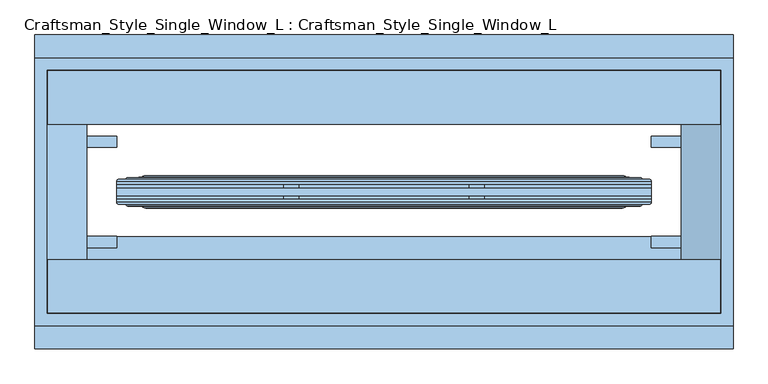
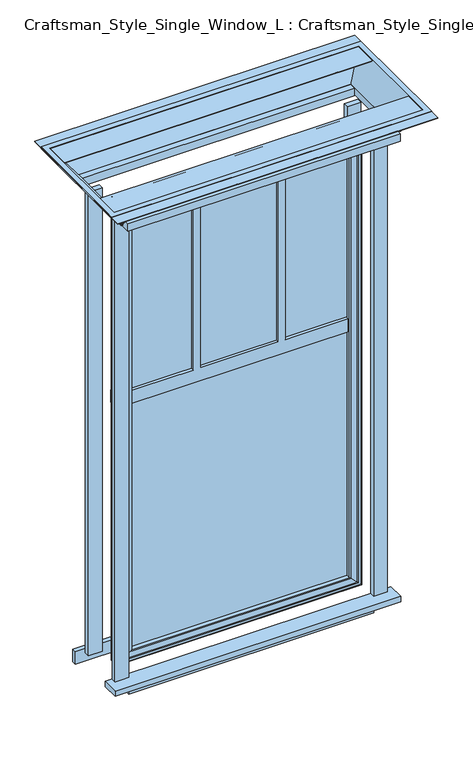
"""IFC4 building model written with IfcOpenShell, lengths in millimetres: window geometry, Craftsman_Style_Single_Window_L : Craftsman_Style_Single_Window_L."""

from ifc_helpers import new_model, si_unit, frame, origin, place, context, project, spatial, polyline, ellipse_curve, outline, extrude, source, transform, mapped, element, save
from ifc_brep_helpers import plane_surface, cylinder_surface, revolved_surface, advanced_brep


def craftsman_style_single_window_l_craftsman_style_single_4874115d(model_context):
    return source(origin(), model_context, "Body", "SolidModel", [
        extrude(outline(polyline([(507.9425208, 76.2), (457.2321354, 76.2), (457.2321354, 95.25), (507.9425208, 95.25), (507.9425208, 76.2)])), frame((0.0, 0.0, 914.4574792), z_axis=(0.0, 0.0, 1.0), x_axis=(1.0, 0.0, 0.0)), (0.0, 0.0, 1.0), 1828.7425208),
        extrude(outline(polyline([(-457.2574792, 76.2), (-508.0574792, 76.2), (-508.0574792, 95.25), (-457.2574792, 95.25), (-457.2574792, 76.2)])), frame((0.0, 0.0, 914.4), z_axis=(0.0, 0.0, 1.0), x_axis=(1.0, 0.0, 0.0)), (0.0, 0.0, 1.0), 1828.8),
        extrude(outline(polyline([(-457.1836897, -95.25), (-507.9425208, -95.25), (-507.9425208, -76.2), (-457.1836897, -76.2), (-457.1836897, -95.25)])), frame((0.0, 0.0, 914.4574792), z_axis=(0.0, 0.0, 1.0), x_axis=(1.0, 0.0, 0.0)), (0.0, 0.0, 1.0), 1828.7264525),
        extrude(outline(polyline([(508.0163103, -95.25), (457.2163103, -95.25), (457.2163103, -76.2), (508.0163103, -76.2), (508.0163103, -95.25)])), frame((0.0, 0.0, 914.3839317), z_axis=(0.0, 0.0, 1.0), x_axis=(1.0, 0.0, 0.0)), (0.0, 0.0, 1.0), 1828.8),
        advanced_brep(
        [(406.3425208, 12.9504719, 2692.3425208), (406.3425208, 27.586435, 2692.3425208), (406.3425208, 27.586435, 965.2574792), (406.3425208, 12.9504719, 965.2574792), (413.5984811, 25.375079, 2699.5984811), (413.5984811, 25.375079, 958.0015189), (-406.3425208, 27.586435, 965.2574792), (-406.3425208, 12.9504719, 965.2574792), (410.0284768, 12.9504719, 2696.0284768), (-410.0284768, 12.9504719, 2696.0284768), (-410.0284768, 12.9504719, 961.5715232), (410.0284768, 12.9504719, 961.5715232), (-406.3425208, 12.9504719, 2692.3425208), (411.1859948, 14.1079899, 2697.1859948), (411.1859948, 14.1079899, 960.4140052), (-411.1859948, 14.1079899, 960.4140052), (430.0429611, 14.1079899, 2716.0429611), (-430.0429611, 14.1079899, 2716.0429611), (-430.0429611, 14.1079899, 941.5570389), (430.0429611, 14.1079899, 941.5570389), (-411.1859948, 14.1079899, 2697.1859948), (431.2842472, 12.9504719, 2717.2842472), (431.2842472, 12.9504719, 940.3157528), (-431.2842472, 12.9504719, 940.3157528), (457.1425208, 12.9504719, 2743.1425208), (-457.1425208, 12.9504719, 2743.1425208), (-457.1425208, 12.9504719, 914.4574792), (457.1425208, 12.9504719, 914.4574792), (-431.2842472, 12.9504719, 2717.2842472), (457.1425208, 16.8138023, 2743.1425208), (457.1425208, 16.8138023, 914.4574792), (-457.1425208, 16.8138023, 914.4574792), (452.3810299, 21.6743318, 2738.3810299), (452.3810299, 21.6743318, 919.2189701), (-452.3810299, 21.6743318, 919.2189701), (-452.3810299, 21.6743318, 2738.3810299), (442.5211044, 21.6743318, 2728.5211044), (-442.5211044, 21.6743318, 2728.5211044), (-442.5211044, 21.6743318, 929.0788956), (442.5211044, 21.6743318, 929.0788956), (436.9638136, 24.2001393, 2722.9638136), (436.9638136, 24.2001393, 934.6361864), (-436.9638136, 24.2001393, 934.6361864), (-413.5984811, 25.375079, 958.0015189), (-406.3425208, 27.586435, 2692.3425208), (-457.1425208, 16.8138023, 2743.1425208), (-436.9638136, 24.2001393, 2722.9638136), (-413.5984811, 25.375079, 2699.5984811)],
        [
            (0, 1),
            (1, 2),
            (2, 3),
            (3, 0),
            (1, 4, ellipse_curve(frame((408.0559717, 20.1987526, 2694.0559717), z_axis=(0.7071067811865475, 0.0, -0.7071067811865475), x_axis=(0.7071067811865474, 0.0, 0.7071067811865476)), 10.7250889, 7.5837831)),
            (4, 5),
            (5, 2, ellipse_curve(frame((408.0559717, 20.1987526, 963.5440283), z_axis=(0.7071067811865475, 0.0, 0.7071067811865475), x_axis=(-0.7071067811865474, 0.0, 0.7071067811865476)), 10.7250889, 7.5837831)),
            (2, 6),
            (6, 7),
            (7, 3),
            (8, 9),
            (9, 10),
            (10, 11),
            (11, 8),
            (7, 12),
            (12, 0),
            (13, 8),
            (11, 14),
            (14, 13),
            (10, 15),
            (15, 14),
            (16, 17),
            (17, 18),
            (18, 19),
            (19, 16),
            (15, 20),
            (20, 13),
            (21, 16),
            (19, 22),
            (22, 21),
            (18, 23),
            (23, 22),
            (24, 25),
            (25, 26),
            (26, 27),
            (27, 24),
            (23, 28),
            (28, 21),
            (29, 24),
            (27, 30),
            (30, 29),
            (26, 31),
            (31, 30),
            (32, 29, ellipse_curve(frame((452.3810299, 16.9118318, 2738.3810299), z_axis=(0.7071067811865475, 0.0, -0.7071067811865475), x_axis=(0.7071067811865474, 0.0, 0.7071067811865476)), 6.7351921, 4.7625)),
            (30, 33, ellipse_curve(frame((452.3810299, 16.9118318, 919.2189701), z_axis=(0.7071067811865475, 0.0, 0.7071067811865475), x_axis=(-0.7071067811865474, 0.0, 0.7071067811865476)), 6.7351921, 4.7625)),
            (33, 32),
            (31, 34, ellipse_curve(frame((-452.3810299, 16.9118318, 919.2189701), z_axis=(0.7071067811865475, 0.0, -0.7071067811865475), x_axis=(0.7071067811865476, 0.0, 0.7071067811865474)), 6.7351921, 4.7625)),
            (34, 33),
            (34, 35),
            (35, 32),
            (36, 37),
            (37, 38),
            (38, 39),
            (39, 36),
            (40, 36, ellipse_curve(frame((437.7371633, 18.5251767, 2723.7371633), z_axis=(0.7071067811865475, 0.0, -0.7071067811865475), x_axis=(0.7071067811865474, 0.0, 0.7071067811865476)), 8.0997864, 5.7274139)),
            (39, 41, ellipse_curve(frame((437.7371633, 18.5251767, 933.8628367), z_axis=(0.7071067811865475, 0.0, 0.7071067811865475), x_axis=(-0.7071067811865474, 0.0, 0.7071067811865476)), 8.0997864, 5.7274139)),
            (41, 40),
            (38, 42, ellipse_curve(frame((-437.7371633, 18.5251767, 933.8628367), z_axis=(0.7071067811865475, 0.0, -0.7071067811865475), x_axis=(0.7071067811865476, 0.0, 0.7071067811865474)), 8.0997864, 5.7274139)),
            (42, 41),
            (4, 40, ellipse_curve(frame((428.4085351, 86.9801248, 2714.4085351), z_axis=(-0.7071067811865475, 0.0, 0.7071067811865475), x_axis=(-0.7071067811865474, 0.0, -0.7071067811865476)), 89.6049036, 63.3602349)),
            (41, 5, ellipse_curve(frame((428.4085351, 86.9801248, 943.1914649), z_axis=(-0.7071067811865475, 0.0, -0.7071067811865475), x_axis=(0.7071067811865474, 0.0, -0.7071067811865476)), 89.6049036, 63.3602349)),
            (42, 43, ellipse_curve(frame((-428.4085351, 86.9801248, 943.1914649), z_axis=(-0.7071067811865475, 0.0, 0.7071067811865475), x_axis=(-0.7071067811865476, 0.0, -0.7071067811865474)), 89.6049036, 63.3602349)),
            (43, 5),
            (43, 6, ellipse_curve(frame((-408.0559717, 20.1987526, 963.5440283), z_axis=(0.7071067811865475, 0.0, -0.7071067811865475), x_axis=(0.7071067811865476, 0.0, 0.7071067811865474)), 10.7250889, 7.5837831)),
            (6, 44),
            (44, 12),
            (9, 20),
            (17, 28),
            (25, 45),
            (45, 31),
            (45, 35, ellipse_curve(frame((-452.3810299, 16.9118318, 2738.3810299), z_axis=(-0.7071067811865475, 0.0, -0.7071067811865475), x_axis=(0.7071067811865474, 0.0, -0.7071067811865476)), 6.7351921, 4.7625)),
            (37, 46, ellipse_curve(frame((-437.7371633, 18.5251767, 2723.7371633), z_axis=(-0.7071067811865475, 0.0, -0.7071067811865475), x_axis=(0.7071067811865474, 0.0, -0.7071067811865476)), 8.0997864, 5.7274139)),
            (46, 42),
            (46, 47, ellipse_curve(frame((-428.4085351, 86.9801248, 2714.4085351), z_axis=(0.7071067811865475, 0.0, 0.7071067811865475), x_axis=(-0.7071067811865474, 0.0, 0.7071067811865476)), 89.6049036, 63.3602349)),
            (47, 43),
            (47, 44, ellipse_curve(frame((-408.0559717, 20.1987526, 2694.0559717), z_axis=(-0.7071067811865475, 0.0, -0.7071067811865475), x_axis=(0.7071067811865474, 0.0, -0.7071067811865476)), 10.7250889, 7.5837831)),
            (44, 1),
            (29, 45),
            (40, 46),
            (4, 47),
        ],
        [
            plane_surface(frame((406.3425208, 27.586435, 2692.3425208), z_axis=(-1.0, 0.0, 0.0), x_axis=(0.0, 0.0, -1.0))),
            cylinder_surface(frame((408.0559717, 20.1987526, 2743.2), z_axis=(0.0, 0.0, 1.0), x_axis=(0.0, 1.0, 0.0)), 7.5837831),
            plane_surface(frame((406.3425208, 27.586435, 965.2574792), z_axis=(0.0, 0.0, 1.0), x_axis=(-1.0, 0.0, 0.0))),
            plane_surface(frame((-406.3425208, 12.9504719, 2692.3425208), z_axis=(0.0, -1.0, 0.0), x_axis=(1.0, 0.0, 0.0))),
            plane_surface(frame((410.0284768, 12.9504719, 2696.0284768), z_axis=(0.707106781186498, -0.7071067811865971, 0.0), x_axis=(0.0, 0.0, -1.0))),
            plane_surface(frame((410.0284768, 12.9504719, 961.5715232), z_axis=(0.0, -0.7071067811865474, -0.7071067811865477), x_axis=(-1.0, 0.0, 0.0))),
            plane_surface(frame((-411.1859948, 14.1079899, 2697.1859948), z_axis=(0.0, -1.0, 0.0), x_axis=(1.0, 0.0, 0.0))),
            plane_surface(frame((430.0429611, 14.1079899, 2716.0429611), z_axis=(-0.6819983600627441, -0.7313537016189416, 0.0), x_axis=(0.0, 0.0, -1.0))),
            plane_surface(frame((430.0429611, 14.1079899, 941.5570389), z_axis=(0.0, -0.7313537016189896, 0.6819983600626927), x_axis=(-1.0, 0.0, 0.0))),
            plane_surface(frame((-431.2842472, 12.9504719, 2717.2842472), z_axis=(0.0, -1.0, 0.0), x_axis=(1.0, 0.0, 0.0))),
            plane_surface(frame((457.1425208, 12.9504719, 2743.1425208), z_axis=(1.0, 0.0, 0.0), x_axis=(0.0, 0.0, -1.0))),
            plane_surface(frame((457.1425208, 12.9504719, 914.4574792), z_axis=(0.0, 0.0, -1.0), x_axis=(-1.0, 0.0, 0.0))),
            cylinder_surface(frame((452.3810299, 16.9118318, 2743.2), z_axis=(0.0, 0.0, 1.0), x_axis=(0.0, 1.0, 0.0)), 4.7625),
            cylinder_surface(frame((457.2, 16.9118318, 919.2189701), z_axis=(1.0, 0.0, 0.0), x_axis=(0.0, 1.0, 0.0)), 4.7625),
            plane_surface(frame((-452.3810299, 21.6743318, 2738.3810299), z_axis=(0.0, 1.0, 0.0), x_axis=(1.0, 0.0, 0.0))),
            cylinder_surface(frame((437.7371633, 18.5251767, 2743.2), z_axis=(0.0, 0.0, 1.0), x_axis=(0.0, 1.0, 0.0)), 5.7274139),
            cylinder_surface(frame((457.2, 18.5251767, 933.8628367), z_axis=(1.0, 0.0, 0.0), x_axis=(0.0, 1.0, 0.0)), 5.7274139),
            revolved_surface(polyline([(428.4085351, 150.3403597, 879.8312299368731), (428.4085351, 150.3403597, 2777.768770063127)]), (428.4085351, 86.9801248, 2743.2), (0.0, 0.0, -1.0)),
            revolved_surface(polyline([(-491.76877006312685, 150.3403597, 943.1914649), (491.76877006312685, 150.3403597, 943.1914649)]), (457.2, 86.9801248, 943.1914649), (-1.0, 0.0, 0.0)),
            cylinder_surface(frame((457.2, 20.1987526, 963.5440283), z_axis=(1.0, 0.0, 0.0), x_axis=(0.0, 1.0, 0.0)), 7.5837831),
            plane_surface(frame((-406.3425208, 27.586435, 965.2574792), z_axis=(1.0, 0.0, 0.0), x_axis=(0.0, 0.0, 1.0))),
            plane_surface(frame((-410.0284768, 12.9504719, 961.5715232), z_axis=(-0.7071067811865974, -0.7071067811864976, 0.0), x_axis=(0.0, 0.0, 1.0))),
            plane_surface(frame((-430.0429611, 14.1079899, 941.5570389), z_axis=(0.6819983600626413, -0.7313537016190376, 0.0), x_axis=(0.0, 0.0, 1.0))),
            plane_surface(frame((-457.1425208, 12.9504719, 914.4574792), z_axis=(-1.0, 0.0, 0.0), x_axis=(0.0, 0.0, 1.0))),
            cylinder_surface(frame((-452.3810299, 16.9118318, 914.4), z_axis=(0.0, 0.0, -1.0), x_axis=(0.0, 1.0, 0.0)), 4.7625),
            cylinder_surface(frame((-437.7371633, 18.5251767, 914.4), z_axis=(0.0, 0.0, -1.0), x_axis=(0.0, 1.0, 0.0)), 5.7274139),
            revolved_surface(polyline([(-428.4085351, 150.3403597, 2777.768770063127), (-428.4085351, 150.3403597, 879.8312299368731)]), (-428.4085351, 86.9801248, 914.4), (0.0, 0.0, 1.0)),
            cylinder_surface(frame((-408.0559717, 20.1987526, 914.4), z_axis=(0.0, 0.0, -1.0), x_axis=(0.0, 1.0, 0.0)), 7.5837831),
            plane_surface(frame((-406.3425208, 27.586435, 2692.3425208), z_axis=(0.0, 0.0, -1.0), x_axis=(1.0, 0.0, 0.0))),
            plane_surface(frame((-410.0284768, 12.9504719, 2696.0284768), z_axis=(0.0, -0.7071067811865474, 0.7071067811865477), x_axis=(1.0, 0.0, 0.0))),
            plane_surface(frame((-430.0429611, 14.1079899, 2716.0429611), z_axis=(0.0, -0.7313537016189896, -0.6819983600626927), x_axis=(1.0, 0.0, 0.0))),
            plane_surface(frame((-457.1425208, 12.9504719, 2743.1425208), z_axis=(0.0, 0.0, 1.0), x_axis=(1.0, 0.0, 0.0))),
            cylinder_surface(frame((-457.2, 16.9118318, 2738.3810299), z_axis=(-1.0, 0.0, 0.0), x_axis=(0.0, 1.0, 0.0)), 4.7625),
            cylinder_surface(frame((-457.2, 18.5251767, 2723.7371633), z_axis=(-1.0, 0.0, 0.0), x_axis=(0.0, 1.0, 0.0)), 5.7274139),
            revolved_surface(polyline([(491.76877006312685, 150.3403597, 2714.4085351), (-491.76877006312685, 150.3403597, 2714.4085351)]), (-457.2, 86.9801248, 2714.4085351), (1.0, 0.0, 0.0)),
            cylinder_surface(frame((-457.2, 20.1987526, 2694.0559717), z_axis=(-1.0, 0.0, 0.0), x_axis=(0.0, 1.0, 0.0)), 7.5837831),
        ],
        [
            (0, [[1, 2, 3, 4]]),
            (1, [[5, 6, 7, -2]]),
            (2, [[-3, 8, 9, 10]]),
            (3, [[11, 12, 13, 14], [-10, 15, 16, -4]]),
            (4, [[17, -14, 18, 19]]),
            (5, [[-18, -13, 20, 21]]),
            (6, [[22, 23, 24, 25], [-21, 26, 27, -19]]),
            (7, [[28, -25, 29, 30]]),
            (8, [[-29, -24, 31, 32]]),
            (9, [[33, 34, 35, 36], [-32, 37, 38, -30]]),
            (10, [[39, -36, 40, 41]]),
            (11, [[-40, -35, 42, 43]]),
            (12, [[44, -41, 45, 46]]),
            (13, [[-45, -43, 47, 48]]),
            (14, [[-48, 49, 50, -46], [51, 52, 53, 54]]),
            (15, [[55, -54, 56, 57]]),
            (16, [[-56, -53, 58, 59]]),
            (17, [[60, -57, 61, -6]]),
            (18, [[-61, -59, 62, 63]]),
            (19, [[-7, -63, 64, -8]]),
            (20, [[-9, 65, 66, -15]]),
            (21, [[-20, -12, 67, -26]]),
            (22, [[-31, -23, 68, -37]]),
            (23, [[-42, -34, 69, 70]]),
            (24, [[-47, -70, 71, -49]]),
            (25, [[-58, -52, 72, 73]]),
            (26, [[-62, -73, 74, 75]]),
            (27, [[-64, -75, 76, -65]]),
            (28, [[-66, 77, -1, -16]]),
            (29, [[-67, -11, -17, -27]]),
            (30, [[-68, -22, -28, -38]]),
            (31, [[-69, -33, -39, 78]]),
            (32, [[-71, -78, -44, -50]]),
            (33, [[-72, -51, -55, 79]]),
            (34, [[-74, -79, -60, 80]]),
            (35, [[-76, -80, -5, -77]]),
        ],
    ),
        advanced_brep(
        [(-406.3425208, -12.7, 2692.3425208), (-406.3425208, -27.3359632, 2692.3425208), (-406.3425208, -27.3359632, 965.2574792), (-406.3425208, -12.7, 965.2574792), (-413.5984811, -25.1246071, 2699.5984811), (-413.5984811, -25.1246071, 958.0015189), (406.3425208, -27.3359632, 965.2574792), (406.3425208, -12.7, 965.2574792), (-410.0284768, -12.7, 2696.0284768), (410.0284768, -12.7, 2696.0284768), (410.0284768, -12.7, 961.5715232), (-410.0284768, -12.7, 961.5715232), (406.3425208, -12.7, 2692.3425208), (-411.1859948, -13.857518, 2697.1859948), (-411.1859948, -13.857518, 960.4140052), (411.1859948, -13.857518, 960.4140052), (-430.0429611, -13.857518, 2716.0429611), (430.0429611, -13.857518, 2716.0429611), (430.0429611, -13.857518, 941.5570389), (-430.0429611, -13.857518, 941.5570389), (411.1859948, -13.857518, 2697.1859948), (-431.2842472, -12.7, 2717.2842472), (-431.2842472, -12.7, 940.3157528), (431.2842472, -12.7, 940.3157528), (-457.1425208, -12.7, 2743.1425208), (457.1425208, -12.7, 2743.1425208), (457.1425208, -12.7, 914.4574792), (-457.1425208, -12.7, 914.4574792), (431.2842472, -12.7, 2717.2842472), (-457.1425208, -16.5633304, 2743.1425208), (-457.1425208, -16.5633304, 914.4574792), (457.1425208, -16.5633304, 914.4574792), (-452.3810299, -21.4238599, 2738.3810299), (-452.3810299, -21.4238599, 919.2189701), (452.3810299, -21.4238599, 919.2189701), (452.3810299, -21.4238599, 2738.3810299), (-442.5211044, -21.4238599, 2728.5211044), (442.5211044, -21.4238599, 2728.5211044), (442.5211044, -21.4238599, 929.0788956), (-442.5211044, -21.4238599, 929.0788956), (-436.9638136, -23.9496674, 2722.9638136), (-436.9638136, -23.9496674, 934.6361864), (436.9638136, -23.9496674, 934.6361864), (413.5984811, -25.1246071, 958.0015189), (406.3425208, -27.3359632, 2692.3425208), (457.1425208, -16.5633304, 2743.1425208), (436.9638136, -23.9496674, 2722.9638136), (413.5984811, -25.1246071, 2699.5984811)],
        [
            (0, 1),
            (1, 2),
            (2, 3),
            (3, 0),
            (1, 4, ellipse_curve(frame((-408.0559717, -19.9482807, 2694.0559717), z_axis=(-0.7071067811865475, 0.0, -0.7071067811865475), x_axis=(-0.7071067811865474, 0.0, 0.7071067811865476)), 10.7250889, 7.5837831)),
            (4, 5),
            (5, 2, ellipse_curve(frame((-408.0559717, -19.9482807, 963.5440283), z_axis=(-0.7071067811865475, 0.0, 0.7071067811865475), x_axis=(0.7071067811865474, 0.0, 0.7071067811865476)), 10.7250889, 7.5837831)),
            (2, 6),
            (6, 7),
            (7, 3),
            (8, 9),
            (9, 10),
            (10, 11),
            (11, 8),
            (7, 12),
            (12, 0),
            (13, 8),
            (11, 14),
            (14, 13),
            (10, 15),
            (15, 14),
            (16, 17),
            (17, 18),
            (18, 19),
            (19, 16),
            (15, 20),
            (20, 13),
            (21, 16),
            (19, 22),
            (22, 21),
            (18, 23),
            (23, 22),
            (24, 25),
            (25, 26),
            (26, 27),
            (27, 24),
            (23, 28),
            (28, 21),
            (29, 24),
            (27, 30),
            (30, 29),
            (26, 31),
            (31, 30),
            (32, 29, ellipse_curve(frame((-452.3810299, -16.6613599, 2738.3810299), z_axis=(-0.7071067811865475, 0.0, -0.7071067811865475), x_axis=(-0.7071067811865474, 0.0, 0.7071067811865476)), 6.7351921, 4.7625)),
            (30, 33, ellipse_curve(frame((-452.3810299, -16.6613599, 919.2189701), z_axis=(-0.7071067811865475, 0.0, 0.7071067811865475), x_axis=(0.7071067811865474, 0.0, 0.7071067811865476)), 6.7351921, 4.7625)),
            (33, 32),
            (31, 34, ellipse_curve(frame((452.3810299, -16.6613599, 919.2189701), z_axis=(-0.7071067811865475, 0.0, -0.7071067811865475), x_axis=(-0.7071067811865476, 0.0, 0.7071067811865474)), 6.7351921, 4.7625)),
            (34, 33),
            (34, 35),
            (35, 32),
            (36, 37),
            (37, 38),
            (38, 39),
            (39, 36),
            (40, 36, ellipse_curve(frame((-437.7371633, -18.2747049, 2723.7371633), z_axis=(-0.7071067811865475, 0.0, -0.7071067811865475), x_axis=(-0.7071067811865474, 0.0, 0.7071067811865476)), 8.0997864, 5.7274139)),
            (39, 41, ellipse_curve(frame((-437.7371633, -18.2747049, 933.8628367), z_axis=(-0.7071067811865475, 0.0, 0.7071067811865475), x_axis=(0.7071067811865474, 0.0, 0.7071067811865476)), 8.0997864, 5.7274139)),
            (41, 40),
            (38, 42, ellipse_curve(frame((437.7371633, -18.2747049, 933.8628367), z_axis=(-0.7071067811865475, 0.0, -0.7071067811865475), x_axis=(-0.7071067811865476, 0.0, 0.7071067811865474)), 8.0997864, 5.7274139)),
            (42, 41),
            (4, 40, ellipse_curve(frame((-428.4085351, -86.7296529, 2714.4085351), z_axis=(0.7071067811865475, 0.0, 0.7071067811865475), x_axis=(0.7071067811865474, 0.0, -0.7071067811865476)), 89.6049036, 63.3602349)),
            (41, 5, ellipse_curve(frame((-428.4085351, -86.7296529, 943.1914649), z_axis=(0.7071067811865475, 0.0, -0.7071067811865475), x_axis=(-0.7071067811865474, 0.0, -0.7071067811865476)), 89.6049036, 63.3602349)),
            (42, 43, ellipse_curve(frame((428.4085351, -86.7296529, 943.1914649), z_axis=(0.7071067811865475, 0.0, 0.7071067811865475), x_axis=(0.7071067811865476, 0.0, -0.7071067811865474)), 89.6049036, 63.3602349)),
            (43, 5),
            (43, 6, ellipse_curve(frame((408.0559717, -19.9482807, 963.5440283), z_axis=(-0.7071067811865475, 0.0, -0.7071067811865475), x_axis=(-0.7071067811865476, 0.0, 0.7071067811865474)), 10.7250889, 7.5837831)),
            (6, 44),
            (44, 12),
            (9, 20),
            (17, 28),
            (25, 45),
            (45, 31),
            (45, 35, ellipse_curve(frame((452.3810299, -16.6613599, 2738.3810299), z_axis=(0.7071067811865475, 0.0, -0.7071067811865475), x_axis=(-0.7071067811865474, 0.0, -0.7071067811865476)), 6.7351921, 4.7625)),
            (37, 46, ellipse_curve(frame((437.7371633, -18.2747049, 2723.7371633), z_axis=(0.7071067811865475, 0.0, -0.7071067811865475), x_axis=(-0.7071067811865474, 0.0, -0.7071067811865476)), 8.0997864, 5.7274139)),
            (46, 42),
            (46, 47, ellipse_curve(frame((428.4085351, -86.7296529, 2714.4085351), z_axis=(-0.7071067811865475, 0.0, 0.7071067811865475), x_axis=(0.7071067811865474, 0.0, 0.7071067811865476)), 89.6049036, 63.3602349)),
            (47, 43),
            (47, 44, ellipse_curve(frame((408.0559717, -19.9482807, 2694.0559717), z_axis=(0.7071067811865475, 0.0, -0.7071067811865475), x_axis=(-0.7071067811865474, 0.0, -0.7071067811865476)), 10.7250889, 7.5837831)),
            (44, 1),
            (29, 45),
            (40, 46),
            (4, 47),
        ],
        [
            plane_surface(frame((-406.3425208, -27.3359632, 2692.3425208), z_axis=(1.0, 0.0, 0.0), x_axis=(0.0, 0.0, -1.0))),
            cylinder_surface(frame((-408.0559717, -19.9482807, 2743.2), z_axis=(0.0, 0.0, 1.0), x_axis=(0.0, -1.0, 0.0)), 7.5837831),
            plane_surface(frame((-406.3425208, -27.3359632, 965.2574792), z_axis=(0.0, 0.0, 1.0), x_axis=(1.0, 0.0, 0.0))),
            plane_surface(frame((406.3425208, -12.7, 2692.3425208), z_axis=(0.0, 1.0, 0.0), x_axis=(-1.0, 0.0, 0.0))),
            plane_surface(frame((-410.0284768, -12.7, 2696.0284768), z_axis=(-0.7071067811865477, 0.7071067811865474, 0.0), x_axis=(0.0, 0.0, -1.0))),
            plane_surface(frame((-410.0284768, -12.7, 961.5715232), z_axis=(0.0, 0.7071067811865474, -0.7071067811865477), x_axis=(1.0, 0.0, 0.0))),
            plane_surface(frame((411.1859948, -13.857518, 2697.1859948), z_axis=(0.0, 1.0, 0.0), x_axis=(-1.0, 0.0, 0.0))),
            plane_surface(frame((-430.0429611, -13.857518, 2716.0429611), z_axis=(0.6819983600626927, 0.7313537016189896, 0.0), x_axis=(0.0, 0.0, -1.0))),
            plane_surface(frame((-430.0429611, -13.857518, 941.5570389), z_axis=(0.0, 0.7313537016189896, 0.6819983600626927), x_axis=(1.0, 0.0, 0.0))),
            plane_surface(frame((431.2842472, -12.7, 2717.2842472), z_axis=(0.0, 1.0, 0.0), x_axis=(-1.0, 0.0, 0.0))),
            plane_surface(frame((-457.1425208, -12.7, 2743.1425208), z_axis=(-1.0, 0.0, 0.0), x_axis=(0.0, 0.0, -1.0))),
            plane_surface(frame((-457.1425208, -12.7, 914.4574792), z_axis=(0.0, 0.0, -1.0), x_axis=(1.0, 0.0, 0.0))),
            cylinder_surface(frame((-452.3810299, -16.6613599, 2743.2), z_axis=(0.0, 0.0, 1.0), x_axis=(0.0, -1.0, 0.0)), 4.7625),
            cylinder_surface(frame((-457.2, -16.6613599, 919.2189701), z_axis=(-1.0, 0.0, 0.0), x_axis=(0.0, -1.0, 0.0)), 4.7625),
            plane_surface(frame((452.3810299, -21.4238599, 2738.3810299), z_axis=(0.0, -1.0, 0.0), x_axis=(-1.0, 0.0, 0.0))),
            cylinder_surface(frame((-437.7371633, -18.2747049, 2743.2), z_axis=(0.0, 0.0, 1.0), x_axis=(0.0, -1.0, 0.0)), 5.7274139),
            cylinder_surface(frame((-457.2, -18.2747049, 933.8628367), z_axis=(-1.0, 0.0, 0.0), x_axis=(0.0, -1.0, 0.0)), 5.7274139),
            revolved_surface(polyline([(-428.4085351, -150.0898878, 879.8312299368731), (-428.4085351, -150.0898878, 2777.768770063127)]), (-428.4085351, -86.7296529, 2743.2), (0.0, 0.0, -1.0)),
            revolved_surface(polyline([(491.76877006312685, -150.0898878, 943.1914649), (-491.76877006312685, -150.0898878, 943.1914649)]), (-457.2, -86.7296529, 943.1914649), (1.0, 0.0, 0.0)),
            cylinder_surface(frame((-457.2, -19.9482807, 963.5440283), z_axis=(-1.0, 0.0, 0.0), x_axis=(0.0, -1.0, 0.0)), 7.5837831),
            plane_surface(frame((406.3425208, -27.3359632, 965.2574792), z_axis=(-1.0, 0.0, 0.0), x_axis=(0.0, 0.0, 1.0))),
            plane_surface(frame((410.0284768, -12.7, 961.5715232), z_axis=(0.7071067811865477, 0.7071067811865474, 0.0), x_axis=(0.0, 0.0, 1.0))),
            plane_surface(frame((430.0429611, -13.857518, 941.5570389), z_axis=(-0.6819983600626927, 0.7313537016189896, 0.0), x_axis=(0.0, 0.0, 1.0))),
            plane_surface(frame((457.1425208, -12.7, 914.4574792), z_axis=(1.0, 0.0, 0.0), x_axis=(0.0, 0.0, 1.0))),
            cylinder_surface(frame((452.3810299, -16.6613599, 914.4), z_axis=(0.0, 0.0, -1.0), x_axis=(0.0, -1.0, 0.0)), 4.7625),
            cylinder_surface(frame((437.7371633, -18.2747049, 914.4), z_axis=(0.0, 0.0, -1.0), x_axis=(0.0, -1.0, 0.0)), 5.7274139),
            revolved_surface(polyline([(428.4085351, -150.0898878, 2777.768770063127), (428.4085351, -150.0898878, 879.8312299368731)]), (428.4085351, -86.7296529, 914.4), (0.0, 0.0, 1.0)),
            cylinder_surface(frame((408.0559717, -19.9482807, 914.4), z_axis=(0.0, 0.0, -1.0), x_axis=(0.0, -1.0, 0.0)), 7.5837831),
            plane_surface(frame((406.3425208, -27.3359632, 2692.3425208), z_axis=(0.0, 0.0, -1.0), x_axis=(-1.0, 0.0, 0.0))),
            plane_surface(frame((410.0284768, -12.7, 2696.0284768), z_axis=(0.0, 0.7071067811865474, 0.7071067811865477), x_axis=(-1.0, 0.0, 0.0))),
            plane_surface(frame((430.0429611, -13.857518, 2716.0429611), z_axis=(0.0, 0.7313537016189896, -0.6819983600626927), x_axis=(-1.0, 0.0, 0.0))),
            plane_surface(frame((457.1425208, -12.7, 2743.1425208), z_axis=(0.0, 0.0, 1.0), x_axis=(-1.0, 0.0, 0.0))),
            cylinder_surface(frame((457.2, -16.6613599, 2738.3810299), z_axis=(1.0, 0.0, 0.0), x_axis=(0.0, -1.0, 0.0)), 4.7625),
            cylinder_surface(frame((457.2, -18.2747049, 2723.7371633), z_axis=(1.0, 0.0, 0.0), x_axis=(0.0, -1.0, 0.0)), 5.7274139),
            revolved_surface(polyline([(-491.76877006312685, -150.0898878, 2714.4085351), (491.76877006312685, -150.0898878, 2714.4085351)]), (457.2, -86.7296529, 2714.4085351), (-1.0, 0.0, 0.0)),
            cylinder_surface(frame((457.2, -19.9482807, 2694.0559717), z_axis=(1.0, 0.0, 0.0), x_axis=(0.0, -1.0, 0.0)), 7.5837831),
        ],
        [
            (0, [[1, 2, 3, 4]]),
            (1, [[5, 6, 7, -2]]),
            (2, [[-3, 8, 9, 10]]),
            (3, [[11, 12, 13, 14], [-10, 15, 16, -4]]),
            (4, [[17, -14, 18, 19]]),
            (5, [[-18, -13, 20, 21]]),
            (6, [[22, 23, 24, 25], [-21, 26, 27, -19]]),
            (7, [[28, -25, 29, 30]]),
            (8, [[-29, -24, 31, 32]]),
            (9, [[33, 34, 35, 36], [-32, 37, 38, -30]]),
            (10, [[39, -36, 40, 41]]),
            (11, [[-40, -35, 42, 43]]),
            (12, [[44, -41, 45, 46]]),
            (13, [[-45, -43, 47, 48]]),
            (14, [[-48, 49, 50, -46], [51, 52, 53, 54]]),
            (15, [[55, -54, 56, 57]]),
            (16, [[-56, -53, 58, 59]]),
            (17, [[60, -57, 61, -6]]),
            (18, [[-61, -59, 62, 63]]),
            (19, [[-7, -63, 64, -8]]),
            (20, [[-9, 65, 66, -15]]),
            (21, [[-20, -12, 67, -26]]),
            (22, [[-31, -23, 68, -37]]),
            (23, [[-42, -34, 69, 70]]),
            (24, [[-47, -70, 71, -49]]),
            (25, [[-58, -52, 72, 73]]),
            (26, [[-62, -73, 74, 75]]),
            (27, [[-64, -75, 76, -65]]),
            (28, [[-66, 77, -1, -16]]),
            (29, [[-67, -11, -17, -27]]),
            (30, [[-68, -22, -28, -38]]),
            (31, [[-69, -33, -39, 78]]),
            (32, [[-71, -78, -44, -50]]),
            (33, [[-72, -51, -55, 79]]),
            (34, [[-74, -79, -60, 80]]),
            (35, [[-76, -80, -5, -77]]),
        ],
    ),
        extrude(outline(polyline([(457.2, -6.35), (-457.2, -6.35), (-457.2, 6.35), (457.2, 6.35), (457.2, -6.35)])), frame((0.0, 0.0, 914.4), z_axis=(0.0, 0.0, 1.0), x_axis=(1.0, 0.0, 0.0)), (0.0, 0.0, 1.0), 1828.8),
        extrude(outline(polyline([(2743.2, -146.05), (2743.2, -171.45), (1981.2, -171.45), (1981.2, -457.2), (1930.4, -457.2), (1930.4, 457.2), (1981.2, 457.2), (1981.2, 171.45), (2743.2, 171.45), (2743.2, 146.05), (1981.2, 146.05), (1981.2, -146.05), (2743.2, -146.05)])), frame((0.0, -19.05, 0.0), z_axis=(0.0, 1.0, 0.0), x_axis=(0.0, 0.0, 1.0)), (0.0, 0.0, 1.0), 12.7),
        extrude(outline(polyline([(1981.2, 171.45), (2743.2, 171.45), (2743.2, 146.05), (1981.2, 146.05), (1981.2, -146.05), (2743.2, -146.05), (2743.2, -171.45), (1981.2, -171.45), (1981.2, -457.2), (1930.4, -457.2), (1930.4, 457.2), (1981.2, 457.2), (1981.2, 171.45)])), frame((0.0, 6.35, 0.0), z_axis=(0.0, 1.0, 0.0), x_axis=(0.0, 0.0, 1.0)), (0.0, 0.0, 1.0), 12.7),
        extrude(outline(polyline([(-596.8425208, -268.2875), (-596.8425208, -115.8875), (596.9163103, -115.8875), (596.9163103, -268.2875), (-596.8425208, -268.2875)])), frame((0.0, 0.0, 2857.5), z_axis=(0.0, 0.0, 1.0), x_axis=(1.0, 0.0, 0.0)), (0.0, 0.0, 1.0), 1.5875),
        extrude(outline(polyline([(-596.8425208, 268.2875), (596.9163103, 268.2875), (596.9163103, 115.8875), (-596.8425208, 115.8875), (-596.8425208, 268.2875)])), frame((0.0, 0.0, 2857.5), z_axis=(0.0, 0.0, 1.0), x_axis=(1.0, 0.0, 0.0)), (0.0, 0.0, 1.0), 1.5875),
        advanced_brep(
        [(596.9163103, 228.6, 2853.5231102), (596.9163103, 228.6, 2860.674973), (596.9163103, -228.6, 2860.674973), (596.9163103, -228.6, 2853.5231102), (590.9514665, 222.6351561, 2850.0736257), (594.4009509, 226.0846406, 2853.5231102), (594.4009509, -226.0846406, 2853.5231102), (590.9514665, -222.6351561, 2850.0736257), (582.1537736, 213.8374633, 2843.8952934), (582.1537736, -213.8374633, 2843.8952934), (579.3852098, 211.0688995, 2838.4448146), (579.3852098, 211.0688995, 2843.8952934), (579.3852098, -211.0688995, 2843.8952934), (579.3852098, -211.0688995, 2838.4448146), (565.8560542, 197.5397438, 2819.1192936), (565.8560542, -197.5397438, 2819.1192936), (558.6138249, 190.2975145, 2814.3944168), (558.6138249, -190.2975145, 2814.3944168), (533.1175631, 164.8012527, 2775.7304653), (533.1175631, -164.8012527, 2775.7304653), (529.8901881, 161.5738778, 2770.6957604), (529.8901881, 161.5738778, 2775.7304653), (529.8901881, -161.5738778, 2775.7304653), (529.8901881, -161.5738778, 2770.6957604), (519.1753034, 150.8589931, 2760.2907037), (526.3013472, 157.9850369, 2770.6957604), (526.3013472, -157.9850369, 2770.6957604), (519.1753034, -150.8589931, 2760.2907037), (519.1753034, 150.8589931, 2756.0047498), (519.1753034, -150.8589931, 2756.0047498), (515.1991775, 146.8828672, 2749.55), (515.1991775, -146.8828672, 2749.55), (508.0163103, 139.7, 2774.1669306), (508.0163103, 139.7, 2749.55), (508.0163103, -139.7, 2749.55), (508.0163103, -139.7, 2774.1669306), (576.2094729, 207.8931626, 2860.674973), (576.2094729, -207.8931626, 2860.674973), (-596.8425208, -228.6, 2860.674973), (-596.8425208, -228.6, 2853.5231102), (-594.3271615, -226.0846406, 2853.5231102), (-590.877677, -222.6351561, 2850.0736257), (-582.0799841, -213.8374633, 2843.8952934), (-579.3114203, -211.0688995, 2843.8952934), (-579.3114203, -211.0688995, 2838.4448146), (-565.7822647, -197.5397438, 2819.1192936), (-558.5400354, -190.2975145, 2814.3944168), (-533.0437736, -164.8012527, 2775.7304653), (-529.8163987, -161.5738778, 2775.7304653), (-529.8163987, -161.5738778, 2770.6957604), (-526.2275577, -157.9850369, 2770.6957604), (-519.1015139, -150.8589931, 2760.2907037), (-519.1015139, -150.8589931, 2756.0047498), (-515.125388, -146.8828672, 2749.55), (-507.9425208, -139.7, 2749.55), (-507.9425208, -139.7, 2774.1669306), (-576.1356834, -207.8931626, 2860.674973), (-596.8425208, 228.6, 2860.674973), (-596.8425208, 228.6, 2853.5231102), (-594.3271615, 226.0846406, 2853.5231102), (-590.877677, 222.6351561, 2850.0736257), (-582.0799841, 213.8374633, 2843.8952934), (-579.3114203, 211.0688995, 2843.8952934), (-579.3114203, 211.0688995, 2838.4448146), (-565.7822647, 197.5397438, 2819.1192936), (-558.5400354, 190.2975145, 2814.3944168), (-533.0437736, 164.8012527, 2775.7304653), (-529.8163987, 161.5738778, 2775.7304653), (-529.8163987, 161.5738778, 2770.6957604), (-526.2275577, 157.9850369, 2770.6957604), (-519.1015139, 150.8589931, 2760.2907037), (-519.1015139, 150.8589931, 2756.0047498), (-515.125388, 146.8828672, 2749.55), (-507.9425208, 139.7, 2749.55), (-507.9425208, 139.7, 2774.1669306), (-576.1356834, 207.8931626, 2860.674973)],
        [
            (0, 1),
            (1, 2),
            (2, 3),
            (3, 0),
            (4, 5, ellipse_curve(frame((598.2354514, 229.919141, 2846.2391253), z_axis=(-0.7071067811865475, 0.7071067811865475, 0.0), x_axis=(-0.7071067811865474, -0.7071067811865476, 0.0)), 11.6412911, 8.2316359)),
            (5, 6),
            (6, 7, ellipse_curve(frame((598.2354514, -229.919141, 2846.2391253), z_axis=(-0.7071067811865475, -0.7071067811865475, 0.0), x_axis=(0.7071067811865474, -0.7071067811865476, 0.0)), 11.6412911, 8.2316359)),
            (7, 4),
            (8, 4, ellipse_curve(frame((583.0961003, 214.7797899, 2851.9064026), z_axis=(0.7071067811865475, -0.7071067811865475, 0.0), x_axis=(0.7071067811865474, 0.7071067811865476, 0.0)), 11.4075282, 8.0663405)),
            (7, 9, ellipse_curve(frame((583.0961003, -214.7797899, 2851.9064026), z_axis=(0.7071067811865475, 0.7071067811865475, 0.0), x_axis=(-0.7071067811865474, 0.7071067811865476, 0.0)), 11.4075282, 8.0663405)),
            (9, 8),
            (10, 11),
            (11, 12),
            (12, 13),
            (13, 10),
            (14, 10, ellipse_curve(frame((557.5478629, 189.2315525, 2839.3339994), z_axis=(0.7071067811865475, -0.7071067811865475, 0.0), x_axis=(0.7071067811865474, 0.7071067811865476, 0.0)), 30.9082633, 21.8554426)),
            (13, 15, ellipse_curve(frame((557.5478629, -189.2315525, 2839.3339994), z_axis=(0.7071067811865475, 0.7071067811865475, 0.0), x_axis=(-0.7071067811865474, 0.7071067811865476, 0.0)), 30.9082633, 21.8554426)),
            (15, 14),
            (16, 14),
            (15, 17),
            (17, 16),
            (18, 16, ellipse_curve(frame((580.065965, 211.7496547, 2772.5096746), z_axis=(-0.7071067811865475, 0.7071067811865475, 0.0), x_axis=(-0.7071067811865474, -0.7071067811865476, 0.0)), 66.5511223, 47.0587499)),
            (17, 19, ellipse_curve(frame((580.065965, -211.7496547, 2772.5096746), z_axis=(-0.7071067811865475, -0.7071067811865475, 0.0), x_axis=(0.7071067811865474, -0.7071067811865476, 0.0)), 66.5511223, 47.0587499)),
            (19, 18),
            (20, 21),
            (21, 22),
            (22, 23),
            (23, 20),
            (24, 25, ellipse_curve(frame((515.8137808, 147.4974704, 2770.2356001), z_axis=(0.7071067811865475, -0.7071067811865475, 0.0), x_axis=(0.7071067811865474, 0.7071067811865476, 0.0)), 14.8459286, 10.4976568)),
            (25, 26),
            (26, 27, ellipse_curve(frame((515.8137808, -147.4974704, 2770.2356001), z_axis=(0.7071067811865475, 0.7071067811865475, 0.0), x_axis=(-0.7071067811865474, 0.7071067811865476, 0.0)), 14.8459286, 10.4976568)),
            (27, 24),
            (28, 24),
            (27, 29),
            (29, 28),
            (30, 28, ellipse_curve(frame((522.4525969, 154.1362866, 2749.5339154), z_axis=(-0.7071067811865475, 0.7071067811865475, 0.0), x_axis=(-0.7071067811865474, -0.7071067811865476, 0.0)), 10.2579093, 7.2534372)),
            (29, 31, ellipse_curve(frame((522.4525969, -154.1362866, 2749.5339154), z_axis=(-0.7071067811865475, -0.7071067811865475, 0.0), x_axis=(0.7071067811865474, -0.7071067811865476, 0.0)), 10.2579093, 7.2534372)),
            (31, 30),
            (32, 33),
            (33, 34),
            (34, 35),
            (35, 32),
            (36, 32),
            (35, 37),
            (37, 36),
            (2, 38),
            (38, 39),
            (39, 3),
            (6, 40),
            (40, 41, ellipse_curve(frame((-598.1616619, -229.919141, 2846.2391253), z_axis=(-0.7071067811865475, 0.7071067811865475, 0.0), x_axis=(-0.7071067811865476, -0.7071067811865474, 0.0)), 11.6412911, 8.2316359)),
            (41, 7),
            (41, 42, ellipse_curve(frame((-583.0223108, -214.7797899, 2851.9064026), z_axis=(0.7071067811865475, -0.7071067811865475, 0.0), x_axis=(0.7071067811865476, 0.7071067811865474, 0.0)), 11.4075282, 8.0663405)),
            (42, 9),
            (12, 43),
            (43, 44),
            (44, 13),
            (44, 45, ellipse_curve(frame((-557.4740734, -189.2315525, 2839.3339994), z_axis=(0.7071067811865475, -0.7071067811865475, 0.0), x_axis=(0.7071067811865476, 0.7071067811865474, 0.0)), 30.9082633, 21.8554426)),
            (45, 15),
            (45, 46),
            (46, 17),
            (46, 47, ellipse_curve(frame((-579.9921756, -211.7496547, 2772.5096746), z_axis=(-0.7071067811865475, 0.7071067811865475, 0.0), x_axis=(-0.7071067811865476, -0.7071067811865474, 0.0)), 66.5511223, 47.0587499)),
            (47, 19),
            (22, 48),
            (48, 49),
            (49, 23),
            (26, 50),
            (50, 51, ellipse_curve(frame((-515.7399913, -147.4974704, 2770.2356001), z_axis=(0.7071067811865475, -0.7071067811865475, 0.0), x_axis=(0.7071067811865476, 0.7071067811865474, 0.0)), 14.8459286, 10.4976568)),
            (51, 27),
            (51, 52),
            (52, 29),
            (52, 53, ellipse_curve(frame((-522.3788074, -154.1362866, 2749.5339154), z_axis=(-0.7071067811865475, 0.7071067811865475, 0.0), x_axis=(-0.7071067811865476, -0.7071067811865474, 0.0)), 10.2579093, 7.2534372)),
            (53, 31),
            (34, 54),
            (54, 55),
            (55, 35),
            (55, 56),
            (56, 37),
            (38, 57),
            (57, 58),
            (58, 39),
            (40, 59),
            (59, 60, ellipse_curve(frame((-598.1616619, 229.919141, 2846.2391253), z_axis=(0.7071067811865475, 0.7071067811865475, 0.0), x_axis=(-0.7071067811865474, 0.7071067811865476, 0.0)), 11.6412911, 8.2316359)),
            (60, 41),
            (60, 61, ellipse_curve(frame((-583.0223108, 214.7797899, 2851.9064026), z_axis=(-0.7071067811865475, -0.7071067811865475, 0.0), x_axis=(0.7071067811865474, -0.7071067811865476, 0.0)), 11.4075282, 8.0663405)),
            (61, 42),
            (43, 62),
            (62, 63),
            (63, 44),
            (63, 64, ellipse_curve(frame((-557.4740734, 189.2315525, 2839.3339994), z_axis=(-0.7071067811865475, -0.7071067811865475, 0.0), x_axis=(0.7071067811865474, -0.7071067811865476, 0.0)), 30.9082633, 21.8554426)),
            (64, 45),
            (64, 65),
            (65, 46),
            (65, 66, ellipse_curve(frame((-579.9921756, 211.7496547, 2772.5096746), z_axis=(0.7071067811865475, 0.7071067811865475, 0.0), x_axis=(-0.7071067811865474, 0.7071067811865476, 0.0)), 66.5511223, 47.0587499)),
            (66, 47),
            (48, 67),
            (67, 68),
            (68, 49),
            (50, 69),
            (69, 70, ellipse_curve(frame((-515.7399913, 147.4974704, 2770.2356001), z_axis=(-0.7071067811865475, -0.7071067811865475, 0.0), x_axis=(0.7071067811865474, -0.7071067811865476, 0.0)), 14.8459286, 10.4976568)),
            (70, 51),
            (70, 71),
            (71, 52),
            (71, 72, ellipse_curve(frame((-522.3788074, 154.1362866, 2749.5339154), z_axis=(0.7071067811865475, 0.7071067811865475, 0.0), x_axis=(-0.7071067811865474, 0.7071067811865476, 0.0)), 10.2579093, 7.2534372)),
            (72, 53),
            (54, 73),
            (73, 74),
            (74, 55),
            (74, 75),
            (75, 56),
            (1, 57),
            (75, 36),
            (0, 58),
            (5, 59),
            (4, 60),
            (8, 61),
            (11, 62),
            (10, 63),
            (14, 64),
            (16, 65),
            (18, 66),
            (21, 67),
            (20, 68),
            (25, 69),
            (24, 70),
            (28, 71),
            (30, 72),
            (33, 73),
            (32, 74),
        ],
        [
            plane_surface(frame((596.9163103, 228.6, 2860.674973), z_axis=(1.0, 0.0, 0.0), x_axis=(0.0, -1.0, 0.0))),
            revolved_surface(polyline([(606.4670873, -238.1507768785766, 2846.2391253), (606.4670873, 238.1507768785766, 2846.2391253)]), (598.2354514, 139.7, 2846.2391253), (0.0, -1.0, 0.0)),
            cylinder_surface(frame((583.0961003, 139.7, 2851.9064026), z_axis=(0.0, 1.0, 0.0), x_axis=(1.0, 0.0, 0.0)), 8.0663405),
            plane_surface(frame((579.3852098, 211.0688995, 2843.8952934), z_axis=(1.0, 0.0, 0.0), x_axis=(0.0, -1.0, 0.0))),
            cylinder_surface(frame((557.5478629, 139.7, 2839.3339994), z_axis=(0.0, 1.0, 0.0), x_axis=(1.0, 0.0, 0.0)), 21.8554426),
            plane_surface(frame((565.8560542, 197.5397438, 2819.1192936), z_axis=(0.5464043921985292, 0.0, -0.8375214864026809), x_axis=(0.0, -1.0, 0.0))),
            revolved_surface(polyline([(627.1247149, -258.8084045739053, 2772.5096746), (627.1247149, 258.80840457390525, 2772.5096746)]), (580.065965, 139.7, 2772.5096746), (0.0, -1.0, 0.0)),
            plane_surface(frame((529.8901881, 161.5738778, 2775.7304653), z_axis=(1.0, 0.0, 0.0), x_axis=(0.0, -1.0, 0.0))),
            cylinder_surface(frame((515.8137808, 139.7, 2770.2356001), z_axis=(0.0, 1.0, 0.0), x_axis=(1.0, 0.0, 0.0)), 10.4976568),
            plane_surface(frame((519.1753034, 150.8589931, 2760.2907037), z_axis=(1.0, 0.0, 0.0), x_axis=(0.0, -1.0, 0.0))),
            revolved_surface(polyline([(529.7060341, -161.38972382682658, 2749.5339154), (529.7060341, 161.38972382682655, 2749.5339154)]), (522.4525969, 139.7, 2749.5339154), (0.0, -1.0, 0.0)),
            plane_surface(frame((508.0163103, 139.7, 2749.55), z_axis=(-1.0, 0.0, 0.0), x_axis=(0.0, -1.0, 0.0))),
            plane_surface(frame((508.0163103, 139.7, 2774.1669306), z_axis=(-0.7853358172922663, 0.0, 0.6190699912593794), x_axis=(0.0, -1.0, 0.0))),
            plane_surface(frame((596.9163103, -228.6, 2860.674973), z_axis=(0.0, -1.0, 0.0), x_axis=(-1.0, 0.0, 0.0))),
            revolved_surface(polyline([(-606.3932977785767, -238.15077689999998, 2846.2391253), (606.4670872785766, -238.15077689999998, 2846.2391253)]), (508.0163103, -229.919141, 2846.2391253), (-1.0, 0.0, 0.0)),
            cylinder_surface(frame((508.0163103, -214.7797899, 2851.9064026), z_axis=(1.0, 0.0, 0.0), x_axis=(0.0, -1.0, 0.0)), 8.0663405),
            plane_surface(frame((579.3852098, -211.0688995, 2843.8952934), z_axis=(0.0, -1.0, 0.0), x_axis=(-1.0, 0.0, 0.0))),
            cylinder_surface(frame((508.0163103, -189.2315525, 2839.3339994), z_axis=(1.0, 0.0, 0.0), x_axis=(0.0, -1.0, 0.0)), 21.8554426),
            plane_surface(frame((565.8560542, -197.5397438, 2819.1192936), z_axis=(0.0, -0.5464043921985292, -0.8375214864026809), x_axis=(-1.0, 0.0, 0.0))),
            revolved_surface(polyline([(-627.0509254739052, -258.8084046, 2772.5096746), (627.1247148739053, -258.8084046, 2772.5096746)]), (508.0163103, -211.7496547, 2772.5096746), (-1.0, 0.0, 0.0)),
            plane_surface(frame((529.8901881, -161.5738778, 2775.7304653), z_axis=(0.0, -1.0, 0.0), x_axis=(-1.0, 0.0, 0.0))),
            cylinder_surface(frame((508.0163103, -147.4974704, 2770.2356001), z_axis=(1.0, 0.0, 0.0), x_axis=(0.0, -1.0, 0.0)), 10.4976568),
            plane_surface(frame((519.1753034, -150.8589931, 2760.2907037), z_axis=(0.0, -1.0, 0.0), x_axis=(-1.0, 0.0, 0.0))),
            revolved_surface(polyline([(-529.6322446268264, -161.3897238, 2749.5339154), (529.7060341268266, -161.3897238, 2749.5339154)]), (508.0163103, -154.1362866, 2749.5339154), (-1.0, 0.0, 0.0)),
            plane_surface(frame((508.0163103, -139.7, 2749.55), z_axis=(0.0, 1.0, 0.0), x_axis=(-1.0, 0.0, 0.0))),
            plane_surface(frame((508.0163103, -139.7, 2774.1669306), z_axis=(0.0, 0.7853358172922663, 0.6190699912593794), x_axis=(-1.0, 0.0, 0.0))),
            plane_surface(frame((-596.8425208, -228.6, 2860.674973), z_axis=(-1.0, 0.0, 0.0), x_axis=(0.0, 1.0, 0.0))),
            revolved_surface(polyline([(-606.3932978, 238.1507768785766, 2846.2391253), (-606.3932978, -238.1507768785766, 2846.2391253)]), (-598.1616619, -139.7, 2846.2391253), (0.0, 1.0, 0.0)),
            cylinder_surface(frame((-583.0223108, -139.7, 2851.9064026), z_axis=(0.0, -1.0, 0.0), x_axis=(-1.0, 0.0, 0.0)), 8.0663405),
            plane_surface(frame((-579.3114203, -211.0688995, 2843.8952934), z_axis=(-1.0, 0.0, 0.0), x_axis=(0.0, 1.0, 0.0))),
            cylinder_surface(frame((-557.4740734, -139.7, 2839.3339994), z_axis=(0.0, -1.0, 0.0), x_axis=(-1.0, 0.0, 0.0)), 21.8554426),
            plane_surface(frame((-565.7822647, -197.5397438, 2819.1192936), z_axis=(-0.5464043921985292, 0.0, -0.8375214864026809), x_axis=(0.0, 1.0, 0.0))),
            revolved_surface(polyline([(-627.0509255, 258.8084045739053, 2772.5096746), (-627.0509255, -258.80840457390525, 2772.5096746)]), (-579.9921756, -139.7, 2772.5096746), (0.0, 1.0, 0.0)),
            plane_surface(frame((-529.8163987, -161.5738778, 2775.7304653), z_axis=(-1.0, 0.0, 0.0), x_axis=(0.0, 1.0, 0.0))),
            cylinder_surface(frame((-515.7399913, -139.7, 2770.2356001), z_axis=(0.0, -1.0, 0.0), x_axis=(-1.0, 0.0, 0.0)), 10.4976568),
            plane_surface(frame((-519.1015139, -150.8589931, 2760.2907037), z_axis=(-1.0, 0.0, 0.0), x_axis=(0.0, 1.0, 0.0))),
            revolved_surface(polyline([(-529.6322446, 161.38972382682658, 2749.5339154), (-529.6322446, -161.38972382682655, 2749.5339154)]), (-522.3788074, -139.7, 2749.5339154), (0.0, 1.0, 0.0)),
            plane_surface(frame((-507.9425208, -139.7, 2749.55), z_axis=(1.0, 0.0, 0.0), x_axis=(0.0, 1.0, 0.0))),
            plane_surface(frame((-507.9425208, -139.7, 2774.1669306), z_axis=(0.7853358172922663, 0.0, 0.6190699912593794), x_axis=(0.0, 1.0, 0.0))),
            plane_surface(frame((-576.1356834, 207.8931626, 2860.674973), z_axis=(0.0, 0.0, 1.0), x_axis=(1.0, 0.0, 0.0))),
            plane_surface(frame((-596.8425208, 228.6, 2860.674973), z_axis=(0.0, 1.0, 0.0), x_axis=(1.0, 0.0, 0.0))),
            plane_surface(frame((-596.8425208, 228.6, 2853.5231102), z_axis=(0.0, 0.0, -1.0), x_axis=(1.0, 0.0, 0.0))),
            revolved_surface(polyline([(606.4670872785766, 238.15077689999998, 2846.2391253), (-606.3932977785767, 238.15077689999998, 2846.2391253)]), (-507.9425208, 229.919141, 2846.2391253), (1.0, 0.0, 0.0)),
            cylinder_surface(frame((-507.9425208, 214.7797899, 2851.9064026), z_axis=(-1.0, 0.0, 0.0), x_axis=(0.0, 1.0, 0.0)), 8.0663405),
            plane_surface(frame((-582.0799841, 213.8374633, 2843.8952934), z_axis=(0.0, 0.0, -1.0), x_axis=(1.0, 0.0, 0.0))),
            plane_surface(frame((-579.3114203, 211.0688995, 2843.8952934), z_axis=(0.0, 1.0, 0.0), x_axis=(1.0, 0.0, 0.0))),
            cylinder_surface(frame((-507.9425208, 189.2315525, 2839.3339994), z_axis=(-1.0, 0.0, 0.0), x_axis=(0.0, 1.0, 0.0)), 21.8554426),
            plane_surface(frame((-565.7822647, 197.5397438, 2819.1192936), z_axis=(0.0, 0.5464043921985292, -0.8375214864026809), x_axis=(1.0, 0.0, 0.0))),
            revolved_surface(polyline([(627.1247148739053, 258.8084046, 2772.5096746), (-627.0509254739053, 258.8084046, 2772.5096746)]), (-507.9425208, 211.7496547, 2772.5096746), (1.0, 0.0, 0.0)),
            plane_surface(frame((-533.0437736, 164.8012527, 2775.7304653), z_axis=(0.0, 0.0, -1.0), x_axis=(1.0, 0.0, 0.0))),
            plane_surface(frame((-529.8163987, 161.5738778, 2775.7304653), z_axis=(0.0, 1.0, 0.0), x_axis=(1.0, 0.0, 0.0))),
            plane_surface(frame((-529.8163987, 161.5738778, 2770.6957604), z_axis=(0.0, 0.0, -1.0), x_axis=(1.0, 0.0, 0.0))),
            cylinder_surface(frame((-507.9425208, 147.4974704, 2770.2356001), z_axis=(-1.0, 0.0, 0.0), x_axis=(0.0, 1.0, 0.0)), 10.4976568),
            plane_surface(frame((-519.1015139, 150.8589931, 2760.2907037), z_axis=(0.0, 1.0, 0.0), x_axis=(1.0, 0.0, 0.0))),
            revolved_surface(polyline([(529.7060341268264, 161.3897238, 2749.5339154), (-529.6322446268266, 161.3897238, 2749.5339154)]), (-507.9425208, 154.1362866, 2749.5339154), (1.0, 0.0, 0.0)),
            plane_surface(frame((-515.125388, 146.8828672, 2749.55), z_axis=(0.0, 0.0, -1.0), x_axis=(1.0, 0.0, 0.0))),
            plane_surface(frame((-507.9425208, 139.7, 2749.55), z_axis=(0.0, -1.0, 0.0), x_axis=(1.0, 0.0, 0.0))),
            plane_surface(frame((-507.9425208, 139.7, 2774.1669306), z_axis=(0.0, -0.7853358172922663, 0.6190699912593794), x_axis=(1.0, 0.0, 0.0))),
        ],
        [
            (0, [[1, 2, 3, 4]]),
            (1, [[5, 6, 7, 8]]),
            (2, [[9, -8, 10, 11]]),
            (3, [[12, 13, 14, 15]]),
            (4, [[16, -15, 17, 18]]),
            (5, [[19, -18, 20, 21]]),
            (6, [[22, -21, 23, 24]]),
            (7, [[25, 26, 27, 28]]),
            (8, [[29, 30, 31, 32]]),
            (9, [[33, -32, 34, 35]]),
            (10, [[36, -35, 37, 38]]),
            (11, [[39, 40, 41, 42]]),
            (12, [[43, -42, 44, 45]]),
            (13, [[-3, 46, 47, 48]]),
            (14, [[-7, 49, 50, 51]]),
            (15, [[-10, -51, 52, 53]]),
            (16, [[-14, 54, 55, 56]]),
            (17, [[-17, -56, 57, 58]]),
            (18, [[-20, -58, 59, 60]]),
            (19, [[-23, -60, 61, 62]]),
            (20, [[-27, 63, 64, 65]]),
            (21, [[-31, 66, 67, 68]]),
            (22, [[-34, -68, 69, 70]]),
            (23, [[-37, -70, 71, 72]]),
            (24, [[-41, 73, 74, 75]]),
            (25, [[-44, -75, 76, 77]]),
            (26, [[-47, 78, 79, 80]]),
            (27, [[-50, 81, 82, 83]]),
            (28, [[-52, -83, 84, 85]]),
            (29, [[-55, 86, 87, 88]]),
            (30, [[-57, -88, 89, 90]]),
            (31, [[-59, -90, 91, 92]]),
            (32, [[-61, -92, 93, 94]]),
            (33, [[-64, 95, 96, 97]]),
            (34, [[-67, 98, 99, 100]]),
            (35, [[-69, -100, 101, 102]]),
            (36, [[-71, -102, 103, 104]]),
            (37, [[-74, 105, 106, 107]]),
            (38, [[-76, -107, 108, 109]]),
            (39, [[110, -78, -46, -2], [-77, -109, 111, -45]]),
            (40, [[-79, -110, -1, 112]]),
            (41, [[-48, -80, -112, -4], [113, -81, -49, -6]]),
            (42, [[-82, -113, -5, 114]]),
            (43, [[-84, -114, -9, 115]]),
            (44, [[-53, -85, -115, -11], [116, -86, -54, -13]]),
            (45, [[-87, -116, -12, 117]]),
            (46, [[-89, -117, -16, 118]]),
            (47, [[-91, -118, -19, 119]]),
            (48, [[-93, -119, -22, 120]]),
            (49, [[-62, -94, -120, -24], [121, -95, -63, -26]]),
            (50, [[-96, -121, -25, 122]]),
            (51, [[-65, -97, -122, -28], [123, -98, -66, -30]]),
            (52, [[-99, -123, -29, 124]]),
            (53, [[-101, -124, -33, 125]]),
            (54, [[-103, -125, -36, 126]]),
            (55, [[-72, -104, -126, -38], [127, -105, -73, -40]]),
            (56, [[-106, -127, -39, 128]]),
            (57, [[-108, -128, -43, -111]]),
        ],
    ),
        extrude(outline(polyline([(508.0163103, 115.8875), (-507.9425208, 115.8875), (-507.9425208, 179.3875), (508.0163103, 179.3875), (508.0163103, 115.8875)])), frame((0.0, 0.0, 2743.2), z_axis=(0.0, 0.0, 1.0), x_axis=(1.0, 0.0, 0.0)), (0.0, 0.0, 1.0), 30.9429653),
        extrude(outline(polyline([(-533.3425208, 132.30096), (533.4574792, 132.30096), (533.4574792, 115.8875), (-533.3425208, 115.8875), (-533.3425208, 132.30096)])), frame((0.0, 0.0, 865.3417486), z_axis=(0.0, 0.0, 1.0), x_axis=(1.0, 0.0, 0.0)), (0.0, 0.0, 1.0), 49.0582514),
        extrude(outline(polyline([(508.0163103, -115.8875), (508.0163103, -179.3875), (-507.9425208, -179.3875), (-507.9425208, -115.8875), (508.0163103, -115.8875)])), frame((0.0, 0.0, 2743.2), z_axis=(0.0, 0.0, 1.0), x_axis=(1.0, 0.0, 0.0)), (0.0, 0.0, 1.0), 30.9429653),
        extrude(outline(polyline([(457.2, -95.25), (-457.2, -95.25), (-457.2, -76.2), (457.2, -76.2), (457.2, -95.25)])), frame((0.0, 0.0, 848.906742), z_axis=(0.0, 0.0, 1.0), x_axis=(1.0, 0.0, 0.0)), (0.0, 0.0, 1.0), 44.45),
        extrude(outline(polyline([(533.3425208, -139.7), (-533.3425208, -139.7), (-533.3425208, -76.2), (533.3425208, -76.2), (533.3425208, -139.7)])), frame((0.0, 0.0, 893.356742), z_axis=(0.0, 0.0, 1.0), x_axis=(1.0, 0.0, 0.0)), (0.0, 0.0, 1.0), 21.0271897),
    ])


if __name__ == "__main__":
    model = new_model("IFC4")
    model_context = context("Model", 3, world=origin())
    ifc_project = project(units=[si_unit("LENGTHUNIT", "METRE", prefix="MILLI")], contexts=[model_context])
    site = spatial("IfcSite", under=ifc_project)
    building = spatial("IfcBuilding", under=site)
    placement = place(None, origin())
    craftsman_style_single_window_l_craftsman_style_single_shape = craftsman_style_single_window_l_craftsman_style_single_4874115d(model_context)
    element("IfcWindow", 1, ObjectType="Craftsman_Style_Single_Window_L : Craftsman_Style_Single_Window_L", at=placement, inside=building, context=model_context, shape_type="MappedRepresentation", body=[
        mapped(craftsman_style_single_window_l_craftsman_style_single_shape, transform((0.0, 0.0, 0.0), x_axis=(1.0, 0.0, 0.0), y_axis=(0.0, 1.0, 0.0), z_axis=(0.0, 0.0, 1.0))),
    ])
    save(model, "model.ifc")
